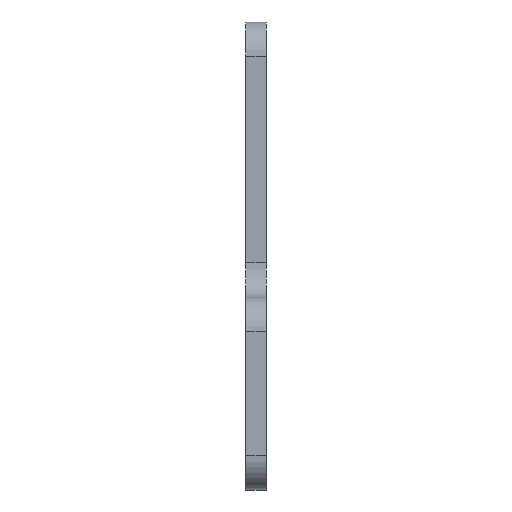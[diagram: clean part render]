
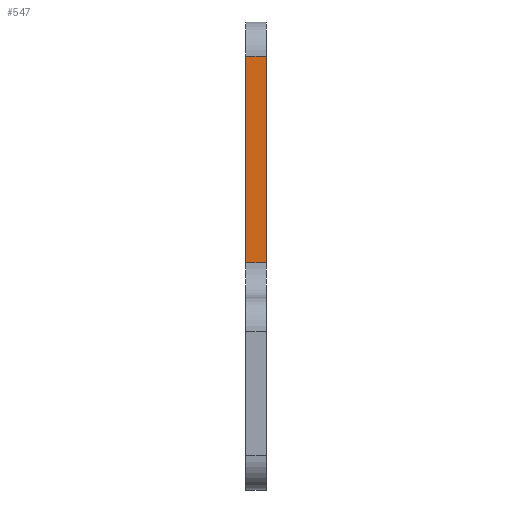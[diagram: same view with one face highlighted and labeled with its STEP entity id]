
A CAD part, left-side view. The second image highlights one B-rep face of the part: STEP entity #547.
In plain terms, the highlighted planar face has unit normal (-1, 0, 0).
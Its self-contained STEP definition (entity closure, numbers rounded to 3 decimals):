
#30 = CARTESIAN_POINT ( 'NONE',  ( -7., 0., 24.5 ) ) ;
#31 = CARTESIAN_POINT ( 'NONE',  ( -7., 1.5, 24.5 ) ) ;
#42 = VECTOR ( 'NONE', #151, 1000. ) ;
#46 = CARTESIAN_POINT ( 'NONE',  ( -7., 0., 27. ) ) ;
#48 = VERTEX_POINT ( 'NONE', #839 ) ;
#54 = CARTESIAN_POINT ( 'NONE',  ( -7., 0., 9.5 ) ) ;
#98 = LINE ( 'NONE', #403, #450 ) ;
#112 = LINE ( 'NONE', #460, #883 ) ;
#117 = DIRECTION ( 'NONE',  ( -1., 0., 0. ) ) ;
#120 = DIRECTION ( 'NONE',  ( 0., -1., 0. ) ) ;
#151 = DIRECTION ( 'NONE',  ( 0., 0., -1. ) ) ;
#160 = ORIENTED_EDGE ( 'NONE', *, *, #604, .T. ) ;
#217 = LINE ( 'NONE', #874, #42 ) ;
#245 = DIRECTION ( 'NONE',  ( 0., 1., 0. ) ) ;
#266 = ORIENTED_EDGE ( 'NONE', *, *, #620, .T. ) ;
#280 = LINE ( 'NONE', #54, #639 ) ;
#401 = VERTEX_POINT ( 'NONE', #30 ) ;
#403 = CARTESIAN_POINT ( 'NONE',  ( -7., 1.5, 27. ) ) ;
#425 = ORIENTED_EDGE ( 'NONE', *, *, #473, .T. ) ;
#450 = VECTOR ( 'NONE', #752, 1000. ) ;
#460 = CARTESIAN_POINT ( 'NONE',  ( -7., 0., 24.5 ) ) ;
#473 = EDGE_CURVE ( 'NONE', #401, #678, #112, .T. ) ;
#492 = FACE_OUTER_BOUND ( 'NONE', #617, .T. ) ;
#541 = PLANE ( 'NONE',  #750 ) ;
#547 = ADVANCED_FACE ( 'NONE', ( #492 ), #541, .T. ) ;
#550 = VERTEX_POINT ( 'NONE', #903 ) ;
#604 = EDGE_CURVE ( 'NONE', #678, #48, #98, .T. ) ;
#615 = DIRECTION ( 'NONE',  ( 0., 0., -1. ) ) ;
#617 = EDGE_LOOP ( 'NONE', ( #160, #266, #894, #425 ) ) ;
#620 = EDGE_CURVE ( 'NONE', #48, #550, #280, .T. ) ;
#639 = VECTOR ( 'NONE', #120, 1000. ) ;
#678 = VERTEX_POINT ( 'NONE', #31 ) ;
#750 = AXIS2_PLACEMENT_3D ( 'NONE', #46, #117, #615 ) ;
#752 = DIRECTION ( 'NONE',  ( 0., 0., -1. ) ) ;
#788 = EDGE_CURVE ( 'NONE', #401, #550, #217, .T. ) ;
#839 = CARTESIAN_POINT ( 'NONE',  ( -7., 1.5, 9.5 ) ) ;
#874 = CARTESIAN_POINT ( 'NONE',  ( -7., 0., 27. ) ) ;
#883 = VECTOR ( 'NONE', #245, 1000. ) ;
#894 = ORIENTED_EDGE ( 'NONE', *, *, #788, .F. ) ;
#903 = CARTESIAN_POINT ( 'NONE',  ( -7., 0., 9.5 ) ) ;
